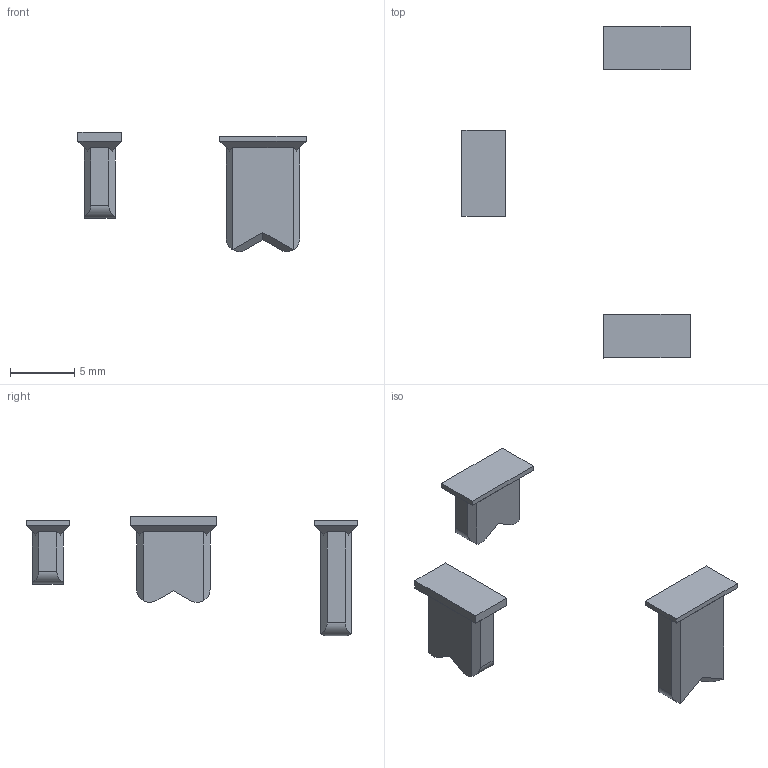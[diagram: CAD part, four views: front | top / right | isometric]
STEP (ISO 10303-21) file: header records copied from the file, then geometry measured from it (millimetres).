
FILE_DESCRIPTION(('CATIA V5 STEP Exchange'),'2;1');
FILE_NAME('C:\Users\loren\Desktop\BONUS_CLIP\COMMON PARTS\TAPPI_Dadi.stp','2021-06-19T11:22:34+00:00',('none'),('none'),'CATIA Version 5 Release 20 SP 1 (IN-10)','CATIA V5 STEP AP214','none');
FILE_SCHEMA(('AUTOMOTIVE_DESIGN { 1 0 10303 214 1 1 1 1 }'));
Length unit declared in the file: millimetre
Products named in the file (1): Soporte_extraible_extrusor_MOD
Bounding box: 17.73 x 25.8 x 9.27 mm (x, y, z)
Volume: 279.7 mm3; surface area: 428.3 mm2
Topology: 3 solids, 3 shells, 67 faces, 173 edges, 112 vertices
Faces by surface type: plane 61, cylinder 6
Entity records: 2002 total; most frequent: CARTESIAN_POINT 491, ORIENTED_EDGE 346, DIRECTION 229, EDGE_CURVE 173, VERTEX_POINT 112, VECTOR 95, LINE 95, AXIS2_PLACEMENT_3D 72
